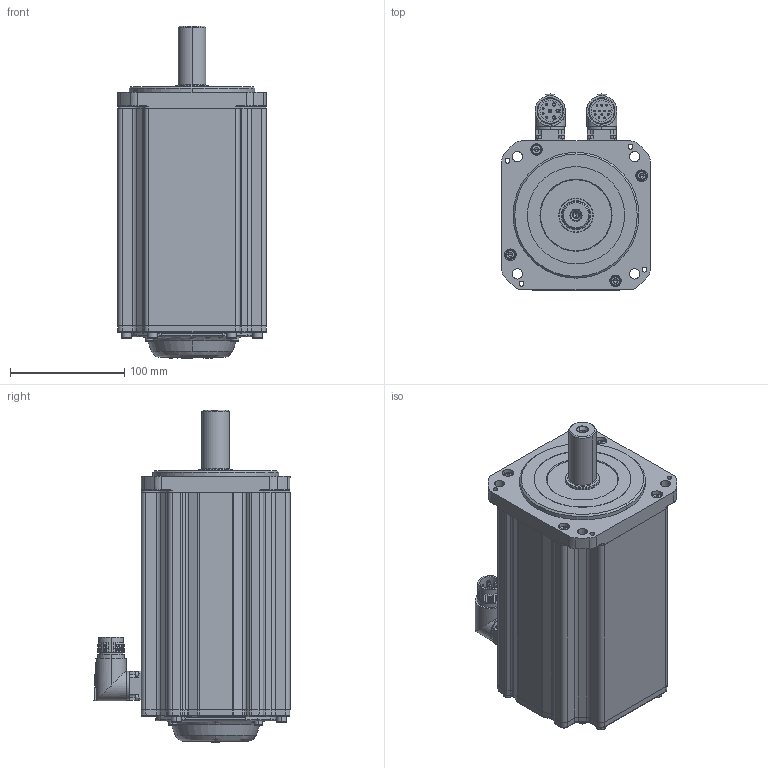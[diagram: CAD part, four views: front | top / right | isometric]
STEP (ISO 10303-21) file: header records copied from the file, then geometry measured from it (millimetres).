
FILE_DESCRIPTION (( 'STEP AP203' ), '1' );
FILE_NAME ('MC20-130-3L30-N302-1¡õPL-NNNN.STEP', '2025-07-29T14:52:12', ( '' ), ( '' ), 'SwSTEP 2.0', 'SolidWorks 2014', '' );
FILE_SCHEMA (( 'CONFIG_CONTROL_DESIGN' ));
Products named in the file (1): MC20-130-3L30-N302-1¡õPL-NNNN
Bounding box: 130 x 171.35 x 290.2 mm (x, y, z)
Volume: 3396320.2 mm3; surface area: 305374.7 mm2
Topology: 28 solids, 28 shells, 2022 faces, 4794 edges, 2857 vertices
Faces by surface type: plane 733, cylinder 567, cone 358, bspline 204, torus 148, sphere 12
Entity records: 62084 total; most frequent: CARTESIAN_POINT 16785, DIRECTION 9523, ORIENTED_EDGE 9364, EDGE_CURVE 4682, AXIS2_PLACEMENT_3D 3694, VERTEX_POINT 2857, EDGE_LOOP 2269, LINE 2135
